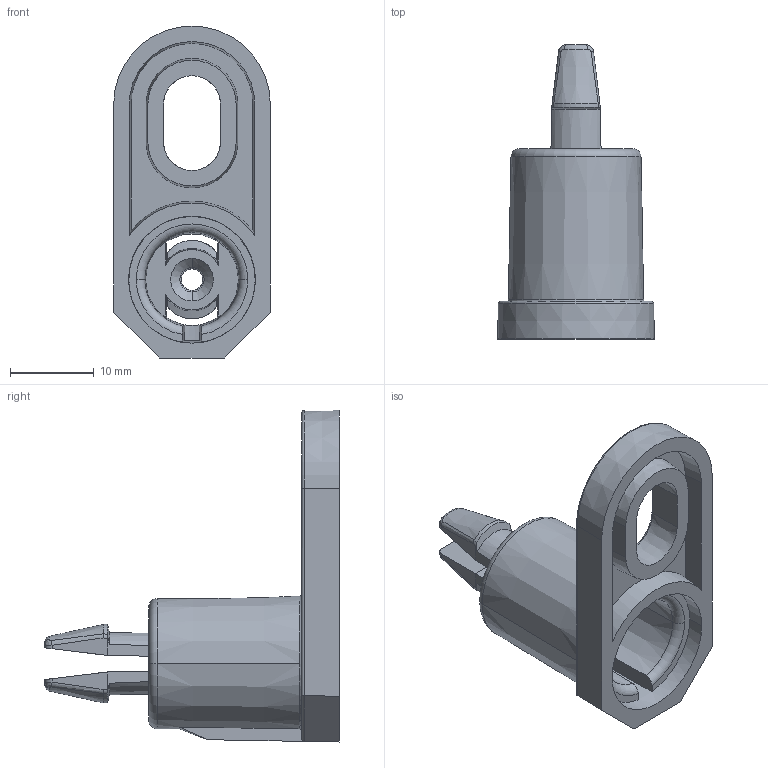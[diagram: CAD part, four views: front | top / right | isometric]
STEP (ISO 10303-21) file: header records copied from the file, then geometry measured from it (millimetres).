
FILE_DESCRIPTION((''),'2;1');
FILE_NAME('PMR1825_ASM','2012-10-03T',('pasi_koskela'),(''),'PRO/ENGINEER BY PARAMETRIC TECHNOLOGY CORPORATION, 2010140','PRO/ENGINEER BY PARAMETRIC TECHNOLOGY CORPORATION, 2010140','');
FILE_SCHEMA(('AUTOMOTIVE_DESIGN_CC2 { 1 2 10303 214 -1 1 5 2 }'));
Length unit declared in the file: millimetre
Products named in the file (2): PMR1825_39; PMR1825_ASM
Assembly tree (1 placements, depth 2):
  PMR1825_ASM
    PMR1825_39
Bounding box: 18.76 x 35.27 x 39.76 mm (x, y, z)
Volume: 4297.8 mm3; surface area: 4345.4 mm2
Topology: 1 solids, 1 shells, 119 faces, 334 edges, 216 vertices
Faces by surface type: plane 46, cylinder 23, cone 21, bspline 15, torus 12, extrusion 2
Entity records: 4967 total; most frequent: CARTESIAN_POINT 1865, ORIENTED_EDGE 668, DIRECTION 515, EDGE_CURVE 334, VERTEX_POINT 216, COLOUR_RGB 200, AXIS2_PLACEMENT_3D 196, EDGE_LOOP 126
